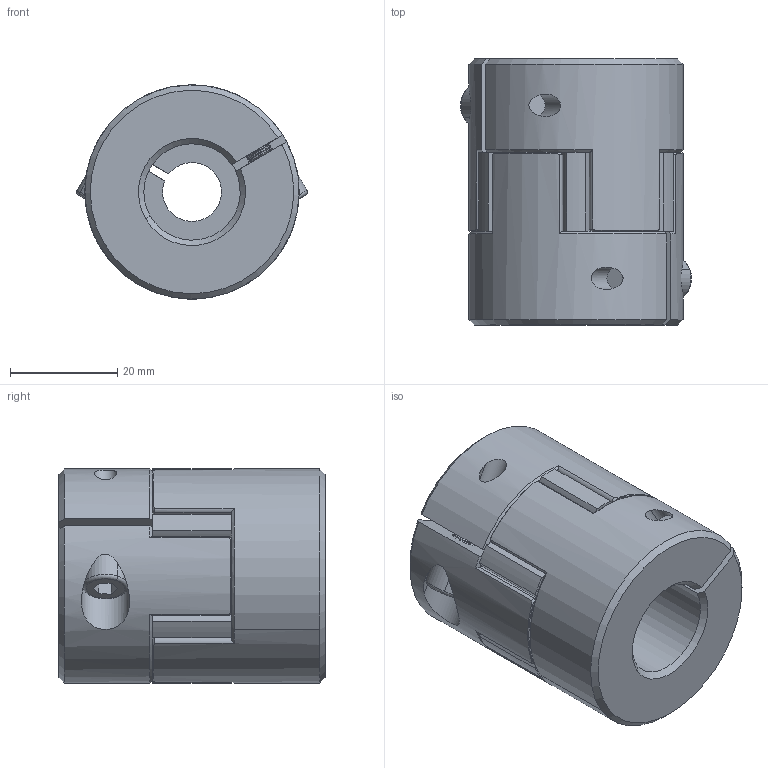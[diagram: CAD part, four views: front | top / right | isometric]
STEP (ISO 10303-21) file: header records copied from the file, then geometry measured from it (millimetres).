
FILE_DESCRIPTION (( 'STEP AP203' ), '1' );
FILE_NAME ('LF-B-D40L50-11-18.STEP', '2021-10-25T02:42:29', ( '' ), ( '' ), 'SwSTEP 2.0', 'SolidWorks 2018', '' );
FILE_SCHEMA (( 'CONFIG_CONTROL_DESIGN' ));
Length unit declared in the file: millimetre
Products named in the file (1): LF-B-D40L50-11-18
Bounding box: 43.11 x 49.7 x 40 mm (x, y, z)
Volume: 50827.4 mm3; surface area: 14605.7 mm2
Topology: 1 solids, 7 shells, 471 faces, 1117 edges, 662 vertices
Faces by surface type: cone 170, cylinder 169, plane 128, torus 4
Entity records: 13972 total; most frequent: CARTESIAN_POINT 2895, DIRECTION 2509, ORIENTED_EDGE 2226, EDGE_CURVE 1113, AXIS2_PLACEMENT_3D 1040, VERTEX_POINT 662, CIRCLE 568, EDGE_LOOP 487
